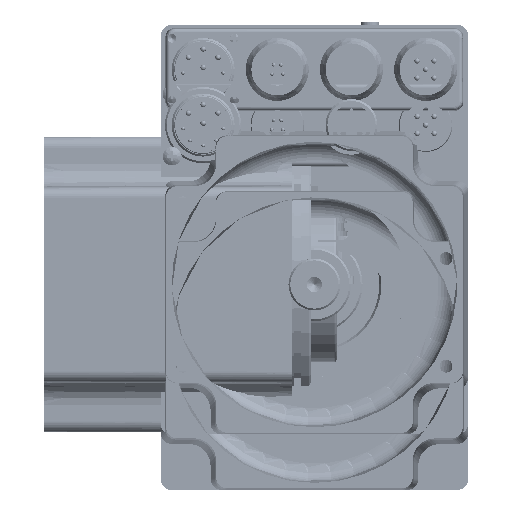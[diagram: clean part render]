
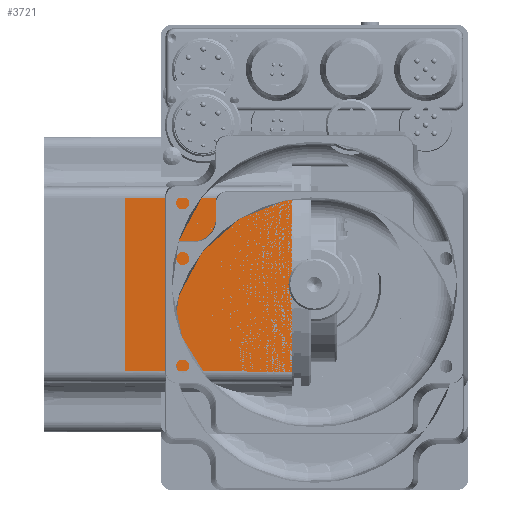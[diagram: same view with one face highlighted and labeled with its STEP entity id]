
A CAD part, front view. The second image highlights one B-rep face of the part: STEP entity #3721.
In plain terms, the highlighted planar face has unit normal (-0.003, -1, 0).
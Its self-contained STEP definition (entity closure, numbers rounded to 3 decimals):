
#3721 = ADVANCED_FACE( '', ( #8677 ), #8678, .T. );
#8677 = FACE_OUTER_BOUND( '', #18738, .T. );
#8678 = PLANE( '', #18739 );
#18738 = EDGE_LOOP( '', ( #34749, #34750, #34751, #34752 ) );
#18739 = AXIS2_PLACEMENT_3D( '', #34753, #34754, #34755 );
#34749 = ORIENTED_EDGE( '', *, *, #43859, .T. );
#34750 = ORIENTED_EDGE( '', *, *, #43812, .T. );
#34751 = ORIENTED_EDGE( '', *, *, #43656, .T. );
#34752 = ORIENTED_EDGE( '', *, *, #44989, .T. );
#34753 = CARTESIAN_POINT( '', ( -5., -40., 0. ) );
#34754 = DIRECTION( '', ( -0.003, -1., 0. ) );
#34755 = DIRECTION( '', ( 1., -0.003, 0. ) );
#43656 = EDGE_CURVE( '', #50595, #50596, #50597, .T. );
#43812 = EDGE_CURVE( '', #50846, #50595, #50847, .T. );
#43859 = EDGE_CURVE( '', #50925, #50846, #50926, .T. );
#44989 = EDGE_CURVE( '', #50596, #50925, #52554, .T. );
#50595 = VERTEX_POINT( '', #69333 );
#50596 = VERTEX_POINT( '', #69334 );
#50597 = LINE( '', #69335, #69336 );
#50846 = VERTEX_POINT( '', #69780 );
#50847 = LINE( '', #69781, #69782 );
#50925 = VERTEX_POINT( '', #69964 );
#50926 = LINE( '', #69965, #69966 );
#52554 = LINE( '', #72977, #72978 );
#69333 = CARTESIAN_POINT( '', ( -6., -39.997, 23.497 ) );
#69334 = CARTESIAN_POINT( '', ( -51., -39.866, 23.366 ) );
#69335 = CARTESIAN_POINT( '', ( -98.991, -39.727, 23.227 ) );
#69336 = VECTOR( '', #80703, 1000. );
#69780 = CARTESIAN_POINT( '', ( -6., -39.997, -23.497 ) );
#69781 = CARTESIAN_POINT( '', ( -6., -39.997, 0. ) );
#69782 = VECTOR( '', #80932, 1000. );
#69964 = CARTESIAN_POINT( '', ( -51., -39.866, -23.366 ) );
#69965 = CARTESIAN_POINT( '', ( -4.991, -40., -23.5 ) );
#69966 = VECTOR( '', #81003, 1000. );
#72977 = CARTESIAN_POINT( '', ( -51., -39.866, 0. ) );
#72978 = VECTOR( '', #82450, 1000. );
#80703 = DIRECTION( '', ( -1., 0.003, -0.003 ) );
#80932 = DIRECTION( '', ( 0., 0., 1. ) );
#81003 = DIRECTION( '', ( 1., -0.003, -0.003 ) );
#82450 = DIRECTION( '', ( 0., 0., -1. ) );
